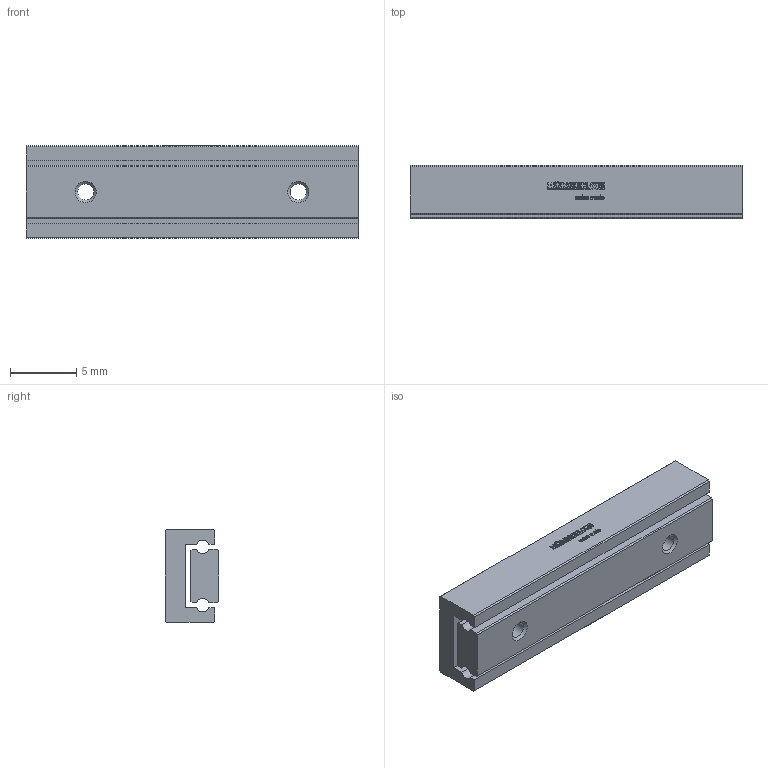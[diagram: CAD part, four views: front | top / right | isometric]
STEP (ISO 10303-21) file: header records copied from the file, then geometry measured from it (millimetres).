
FILE_DESCRIPTION(/* description */ ('STEP AP214'),/* implementation_level */ '2;1');
FILE_NAME(/* name */ 'NDN 05-25.20(0)',/* time_stamp */ '2025-04-16T17:07:31+02:00',/* author */ ('License CC BY-ND 4.0'),/* organization */ ('CADENAS'),/* preprocessor_version */ 'ST-DEVELOPER v19.3',/* originating_system */ 'PARTsolutions',/* authorisation */ ' ');
FILE_SCHEMA (('AUTOMOTIVE_DESIGN {1 0 10303 214 3 1 1}'));
Length unit declared in the file: millimetre
Products named in the file (3): NDN 05-25.20(0); NDN 05-25.20_1; NDN 05-25.20_2
Assembly tree (2 placements, depth 2):
  NDN 05-25.20(0)
    NDN 05-25.20_1
    NDN 05-25.20_2
Bounding box: 25 x 4 x 7 mm (x, y, z)
Volume: 563.5 mm3; surface area: 1032.8 mm2
Topology: 2 solids, 2 shells, 507 faces, 1424 edges, 948 vertices
Faces by surface type: cylinder 300, plane 201, cone 6
Full cylindrical faces by diameter (mm): 1.221 x4
Entity records: 16615 total; most frequent: DIRECTION 3038, CARTESIAN_POINT 2868, ORIENTED_EDGE 2824, EDGE_CURVE 1412, AXIS2_PLACEMENT_3D 1116, VERTEX_POINT 946, LINE 806, VECTOR 806
